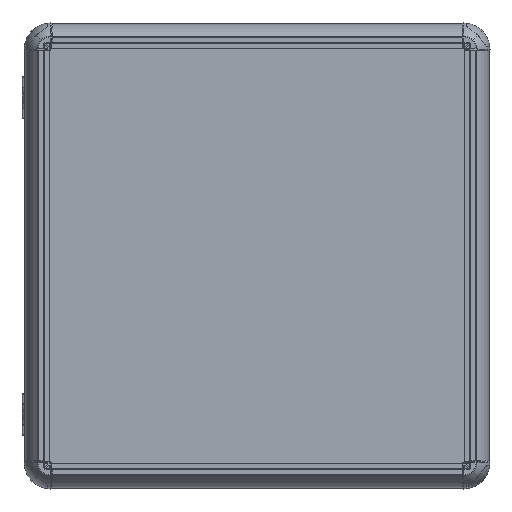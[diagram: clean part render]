
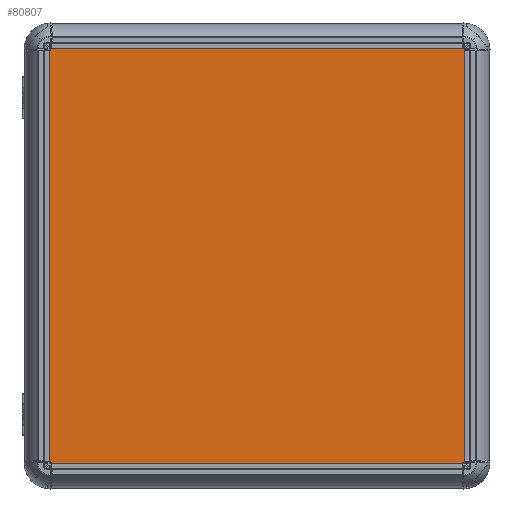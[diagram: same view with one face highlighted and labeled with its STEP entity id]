
A CAD part, top view. The second image highlights one B-rep face of the part: STEP entity #80807.
In plain terms, the highlighted planar face has unit normal (0, 0, 1).
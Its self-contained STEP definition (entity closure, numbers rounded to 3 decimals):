
#7365 = VECTOR ( 'NONE', #99474, 1000. ) ;
#13445 = EDGE_CURVE ( 'NONE', #97366, #50319, #22900, .T. ) ;
#22900 = LINE ( 'NONE', #49735, #136528 ) ;
#25789 = CARTESIAN_POINT ( 'NONE',  ( -200., -200., 2. ) ) ;
#26263 = DIRECTION ( 'NONE',  ( 1., 0., 0. ) ) ;
#27251 = CARTESIAN_POINT ( 'NONE',  ( -200., 200., 2. ) ) ;
#29709 = CARTESIAN_POINT ( 'NONE',  ( 200., -200., 2. ) ) ;
#32942 = CARTESIAN_POINT ( 'NONE',  ( -200., -200., 2. ) ) ;
#37487 = DIRECTION ( 'NONE',  ( 0., 1., 0. ) ) ;
#37622 = PLANE ( 'NONE',  #152594 ) ;
#49735 = CARTESIAN_POINT ( 'NONE',  ( 200., 200., 2. ) ) ;
#50319 = VERTEX_POINT ( 'NONE', #106145 ) ;
#50679 = CARTESIAN_POINT ( 'NONE',  ( 0., 0., 2. ) ) ;
#60255 = VERTEX_POINT ( 'NONE', #66700 ) ;
#62078 = CARTESIAN_POINT ( 'NONE',  ( -200., 200., 2. ) ) ;
#66232 = ORIENTED_EDGE ( 'NONE', *, *, #146733, .T. ) ;
#66700 = CARTESIAN_POINT ( 'NONE',  ( -200., 200., 2. ) ) ;
#74161 = LINE ( 'NONE', #62078, #100255 ) ;
#77372 = DIRECTION ( 'NONE',  ( 0., -1., 0. ) ) ;
#80807 = ADVANCED_FACE ( 'NONE', ( #138254 ), #37622, .T. ) ;
#82414 = DIRECTION ( 'NONE',  ( 1., 0., 0. ) ) ;
#93994 = ORIENTED_EDGE ( 'NONE', *, *, #13445, .T. ) ;
#95424 = LINE ( 'NONE', #32942, #139556 ) ;
#97366 = VERTEX_POINT ( 'NONE', #29709 ) ;
#98312 = EDGE_CURVE ( 'NONE', #60255, #145831, #74161, .T. ) ;
#99474 = DIRECTION ( 'NONE',  ( -1., 0., 0. ) ) ;
#100255 = VECTOR ( 'NONE', #77372, 1000. ) ;
#106145 = CARTESIAN_POINT ( 'NONE',  ( 200., 200., 2. ) ) ;
#127444 = ORIENTED_EDGE ( 'NONE', *, *, #98312, .T. ) ;
#136528 = VECTOR ( 'NONE', #37487, 1000. ) ;
#136641 = DIRECTION ( 'NONE',  ( 0., 0., 1. ) ) ;
#138254 = FACE_OUTER_BOUND ( 'NONE', #148788, .T. ) ;
#139556 = VECTOR ( 'NONE', #82414, 1000. ) ;
#145831 = VERTEX_POINT ( 'NONE', #25789 ) ;
#146733 = EDGE_CURVE ( 'NONE', #50319, #60255, #149813, .T. ) ;
#148788 = EDGE_LOOP ( 'NONE', ( #93994, #66232, #127444, #158451 ) ) ;
#149813 = LINE ( 'NONE', #27251, #7365 ) ;
#152594 = AXIS2_PLACEMENT_3D ( 'NONE', #50679, #136641, #26263 ) ;
#158451 = ORIENTED_EDGE ( 'NONE', *, *, #159550, .T. ) ;
#159550 = EDGE_CURVE ( 'NONE', #145831, #97366, #95424, .T. ) ;
